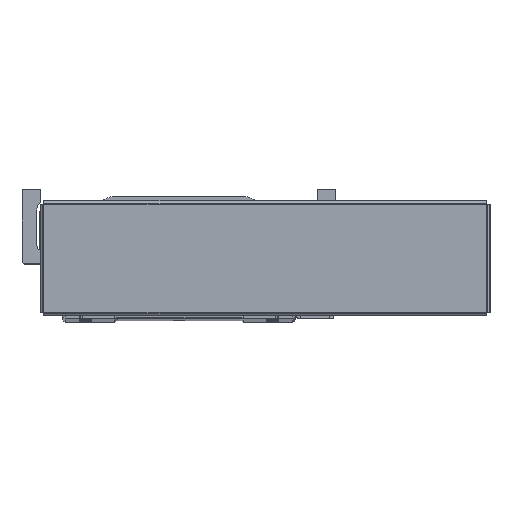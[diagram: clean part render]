
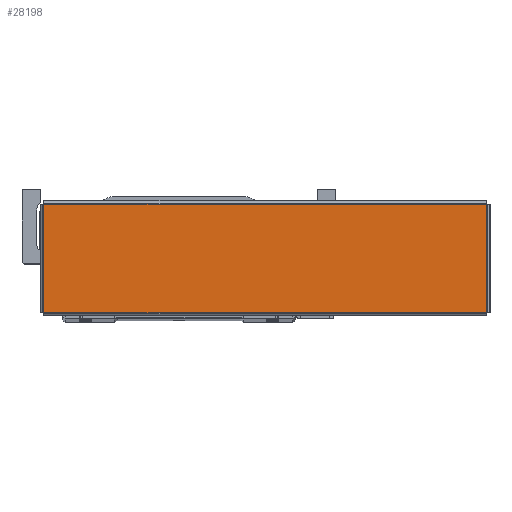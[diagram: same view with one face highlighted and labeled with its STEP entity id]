
A CAD part, top view. The second image highlights one B-rep face of the part: STEP entity #28198.
In plain terms, the highlighted planar face has unit normal (0, 0, 1) as drawn and (0, -1, 0) by its records, which use the part's own axes.
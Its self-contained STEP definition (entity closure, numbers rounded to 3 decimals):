
#1939 = FACE_OUTER_BOUND ( 'NONE', #11801, .T. ) ;
#4101 = DIRECTION ( 'NONE',  ( 0., 0., 1. ) ) ;
#4124 = PLANE ( 'NONE',  #11009 ) ;
#4132 = DIRECTION ( 'NONE',  ( 0., 1., 0. ) ) ;
#4134 = CARTESIAN_POINT ( 'NONE',  ( 0., -1.2, 0. ) ) ;
#11009 = AXIS2_PLACEMENT_3D ( 'NONE', #4134, #4132, #4101 ) ;
#11801 = EDGE_LOOP ( 'NONE', ( #42610, #42663, #42582, #42620 ) ) ;
#12704 = CARTESIAN_POINT ( 'NONE',  ( 128.363, -1.2, 31.363 ) ) ;
#12734 = CARTESIAN_POINT ( 'NONE',  ( 128.363, -1.2, -31.363 ) ) ;
#12736 = CARTESIAN_POINT ( 'NONE',  ( -128.363, -1.2, 31.363 ) ) ;
#12751 = CARTESIAN_POINT ( 'NONE',  ( -128.363, -1.2, -31.363 ) ) ;
#16123 = VERTEX_POINT ( 'NONE', #12704 ) ;
#16135 = VERTEX_POINT ( 'NONE', #12751 ) ;
#16167 = VERTEX_POINT ( 'NONE', #12734 ) ;
#16179 = VERTEX_POINT ( 'NONE', #12736 ) ;
#24846 = DIRECTION ( 'NONE',  ( 1., 0., 0. ) ) ;
#24864 = CARTESIAN_POINT ( 'NONE',  ( -128.393, -1.2, -31.363 ) ) ;
#25072 = CARTESIAN_POINT ( 'NONE',  ( -128.363, -1.2, 31.393 ) ) ;
#25101 = DIRECTION ( 'NONE',  ( 0., 0., -1. ) ) ;
#25156 = CARTESIAN_POINT ( 'NONE',  ( 128.393, -1.2, 31.363 ) ) ;
#25170 = CARTESIAN_POINT ( 'NONE',  ( 128.363, -1.2, -31.393 ) ) ;
#25174 = DIRECTION ( 'NONE',  ( 0., 0., 1. ) ) ;
#25184 = DIRECTION ( 'NONE',  ( -1., 0., 0. ) ) ;
#28198 = ADVANCED_FACE ( 'NONE', ( #1939 ), #4124, .F. ) ;
#35818 = EDGE_CURVE ( 'NONE', #16135, #16167, #36679, .T. ) ;
#35857 = EDGE_CURVE ( 'NONE', #16179, #16135, #36719, .T. ) ;
#35867 = EDGE_CURVE ( 'NONE', #16167, #16123, #36734, .T. ) ;
#35869 = EDGE_CURVE ( 'NONE', #16123, #16179, #36833, .T. ) ;
#36675 = VECTOR ( 'NONE', #24846, 1000. ) ;
#36679 = LINE ( 'NONE', #24864, #36675 ) ;
#36719 = LINE ( 'NONE', #25072, #36731 ) ;
#36731 = VECTOR ( 'NONE', #25101, 1000. ) ;
#36734 = LINE ( 'NONE', #25170, #36736 ) ;
#36736 = VECTOR ( 'NONE', #25174, 1000. ) ;
#36801 = VECTOR ( 'NONE', #25184, 1000. ) ;
#36833 = LINE ( 'NONE', #25156, #36801 ) ;
#42582 = ORIENTED_EDGE ( 'NONE', *, *, #35818, .T. ) ;
#42610 = ORIENTED_EDGE ( 'NONE', *, *, #35869, .T. ) ;
#42620 = ORIENTED_EDGE ( 'NONE', *, *, #35867, .T. ) ;
#42663 = ORIENTED_EDGE ( 'NONE', *, *, #35857, .T. ) ;
